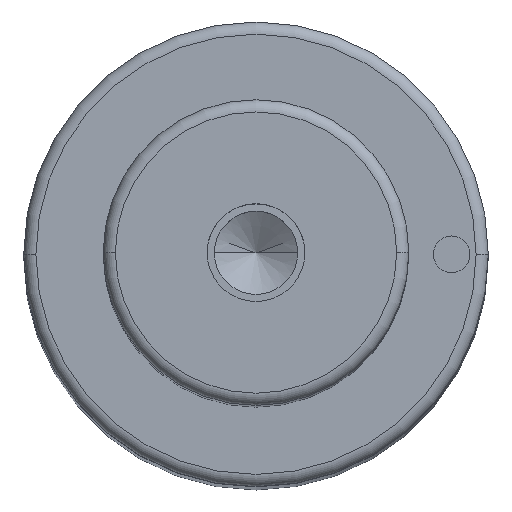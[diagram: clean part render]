
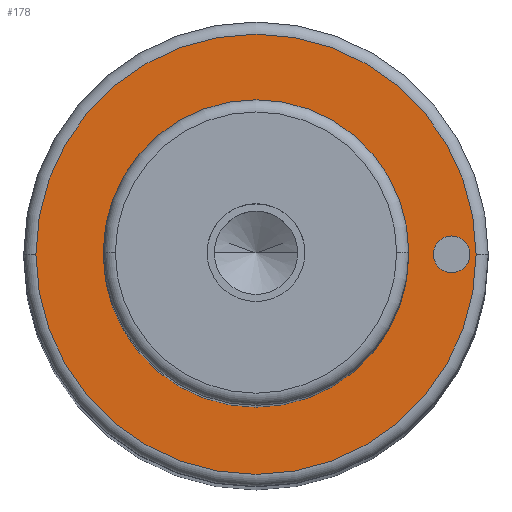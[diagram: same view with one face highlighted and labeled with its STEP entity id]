
A CAD part, top view. The second image highlights one B-rep face of the part: STEP entity #178.
In plain terms, the highlighted planar face has unit normal (0, 0, 1).
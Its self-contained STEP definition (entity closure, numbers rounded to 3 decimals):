
#105=PLANE('',#866);
#115=FACE_BOUND('',#283,.T.);
#116=FACE_BOUND('',#284,.T.);
#117=FACE_BOUND('',#285,.T.);
#178=ADVANCED_FACE('',(#115,#116,#117),#105,.T.);
#283=EDGE_LOOP('',(#473,#474));
#284=EDGE_LOOP('',(#475,#476));
#285=EDGE_LOOP('',(#477,#478));
#333=CIRCLE('',#834,12.5);
#334=CIRCLE('',#836,12.5);
#338=CIRCLE('',#841,18.);
#339=CIRCLE('',#843,18.);
#351=CIRCLE('',#864,1.5);
#352=CIRCLE('',#865,1.5);
#473=ORIENTED_EDGE('',*,*,#666,.F.);
#474=ORIENTED_EDGE('',*,*,#667,.F.);
#475=ORIENTED_EDGE('',*,*,#685,.F.);
#476=ORIENTED_EDGE('',*,*,#686,.F.);
#477=ORIENTED_EDGE('',*,*,#662,.T.);
#478=ORIENTED_EDGE('',*,*,#660,.T.);
#590=VERTEX_POINT('',#1233);
#591=VERTEX_POINT('',#1235);
#592=VERTEX_POINT('',#1241);
#595=VERTEX_POINT('',#1246);
#604=VERTEX_POINT('',#1285);
#605=VERTEX_POINT('',#1286);
#660=EDGE_CURVE('',#591,#590,#333,.T.);
#662=EDGE_CURVE('',#590,#591,#334,.T.);
#666=EDGE_CURVE('',#595,#592,#338,.T.);
#667=EDGE_CURVE('',#592,#595,#339,.T.);
#685=EDGE_CURVE('',#604,#605,#351,.T.);
#686=EDGE_CURVE('',#605,#604,#352,.T.);
#834=AXIS2_PLACEMENT_3D('',#1234,#985,#986);
#836=AXIS2_PLACEMENT_3D('',#1238,#990,#991);
#841=AXIS2_PLACEMENT_3D('',#1247,#1000,#1001);
#843=AXIS2_PLACEMENT_3D('',#1249,#1004,#1005);
#864=AXIS2_PLACEMENT_3D('',#1284,#1052,#1053);
#865=AXIS2_PLACEMENT_3D('',#1287,#1054,#1055);
#866=AXIS2_PLACEMENT_3D('',#1288,#1056,#1057);
#985=DIRECTION('',(0.,0.,-1.));
#986=DIRECTION('',(0.,1.,0.));
#990=DIRECTION('',(0.,0.,-1.));
#991=DIRECTION('',(0.,-1.,0.));
#1000=DIRECTION('',(0.,0.,-1.));
#1001=DIRECTION('',(0.,1.,0.));
#1004=DIRECTION('',(0.,0.,-1.));
#1005=DIRECTION('',(0.,-1.,0.));
#1052=DIRECTION('',(0.,0.,1.));
#1053=DIRECTION('',(0.,1.,0.));
#1054=DIRECTION('',(0.,0.,1.));
#1055=DIRECTION('',(0.,-1.,0.));
#1056=DIRECTION('',(0.,0.,1.));
#1057=DIRECTION('',(0.,-1.,0.));
#1233=CARTESIAN_POINT('',(-12.5,0.,158.));
#1234=CARTESIAN_POINT('',(0.,0.,158.));
#1235=CARTESIAN_POINT('',(12.5,0.,158.));
#1238=CARTESIAN_POINT('',(0.,0.,158.));
#1241=CARTESIAN_POINT('',(-18.,0.,158.));
#1246=CARTESIAN_POINT('',(18.,0.,158.));
#1247=CARTESIAN_POINT('',(0.,0.,158.));
#1249=CARTESIAN_POINT('',(0.,0.,158.));
#1284=CARTESIAN_POINT('',(16.,0.,158.));
#1285=CARTESIAN_POINT('',(14.5,0.,158.));
#1286=CARTESIAN_POINT('',(17.5,0.,158.));
#1287=CARTESIAN_POINT('',(16.,0.,158.));
#1288=CARTESIAN_POINT('',(0.,0.,158.));
